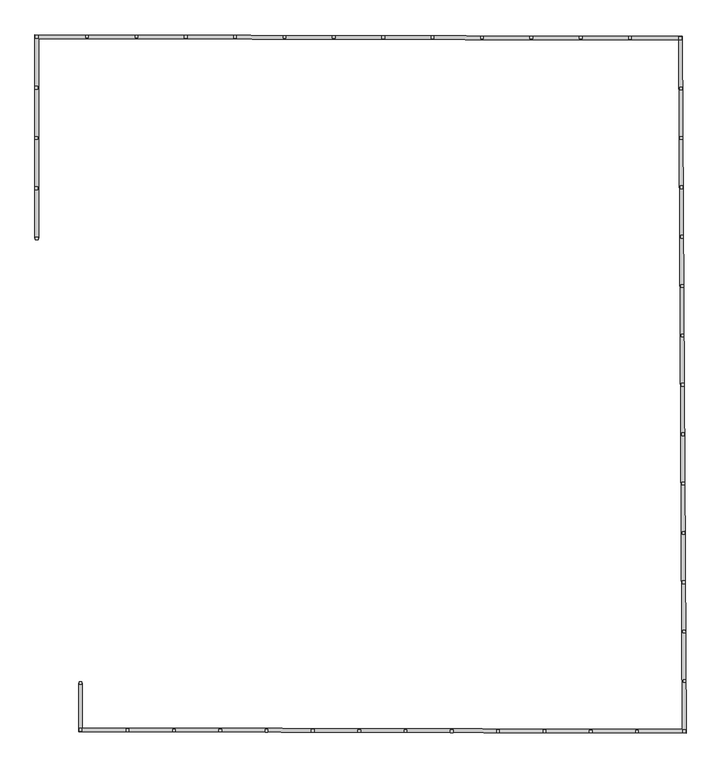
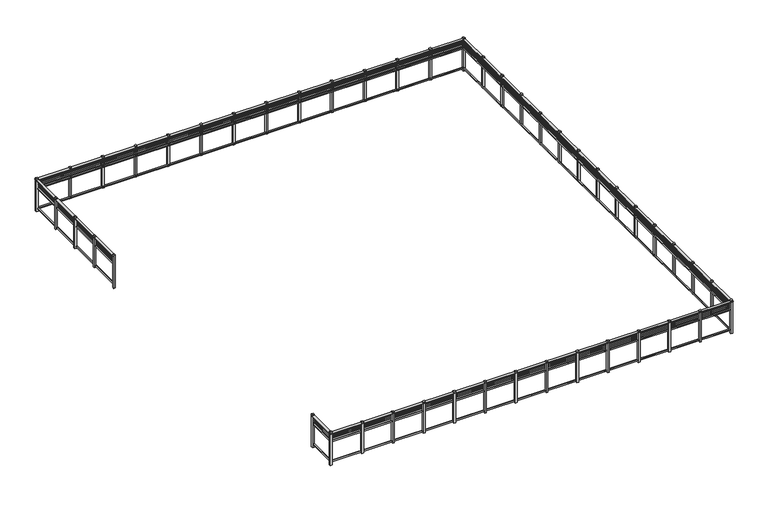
"""IFC4 building model written with IfcOpenShell, lengths in millimetres: railing geometry, Dolan Fence - Frame."""

import ifcopenshell
import ifcopenshell.guid

model = None  # the IFC model being written
_history = None  # IfcOwnerHistory: only IFC2X3 demands one
_inside = {}  # id of a spatial element -> (the spatial element, [elements in it])
_under = {}  # id of a project, library or spatial element -> (it, [spatial elements below it])
_declared = {}  # id of a project -> (the project, [libraries it declares])
_typed = {}  # id of a type object -> (the type object, [elements of that type])
_made_of = {}  # id of a material, layer set ... -> (it, [elements and type objects made of it])


def new_model(schema):
    """Start an empty IFC model of exactly this schema.

    Asked for "IFC4X3", IfcOpenShell would pick the latest addendum, in which some entities
    have other attributes; the version numbers below select the first issue.
    IFC2X3 requires an IfcOwnerHistory on every rooted entity: one is made here for all.
    """
    global model, _history
    if schema == "IFC4X3":
        model = ifcopenshell.file(schema_version=(4, 3, 0, 0))
    else:
        model = ifcopenshell.file(schema=schema)
    _inside.clear()
    _under.clear()
    _declared.clear()
    _typed.clear()
    _made_of.clear()
    _history = None
    if model.schema == "IFC2X3":
        org = make("IfcOrganization", Name="unknown")
        user = make(
            "IfcPersonAndOrganization",
            ThePerson=make("IfcPerson", FamilyName="unknown"),
            TheOrganization=org,
        )
        app = make(
            "IfcApplication",
            ApplicationDeveloper=org,
            Version="unknown",
            ApplicationFullName="unknown",
            ApplicationIdentifier="unknown",
        )
        _history = make(
            "IfcOwnerHistory",
            OwningUser=user,
            OwningApplication=app,
            ChangeAction="ADDED",
            CreationDate=0,
        )
    return model


def make(cls, **values):
    """One entity of the class cls with the attributes given. An attribute that is None is left unset."""
    return model.create_entity(
        cls, **{name: value for name, value in values.items() if value is not None}
    )


def rooted(cls, **values):
    """An entity with a GlobalId (a new one), such as an element, a storey or a relation."""
    return make(cls, GlobalId=ifcopenshell.guid.new(), OwnerHistory=_history, **values)


def si_unit(unit_type, name, prefix=None):
    """IfcSIUnit, for example si_unit("LENGTHUNIT", "METRE", prefix="MILLI")."""
    return make("IfcSIUnit", UnitType=unit_type, Prefix=prefix, Name=name)


def assignment(units):
    """IfcUnitAssignment: the units of a project."""
    return None if units is None else make("IfcUnitAssignment", Units=units)


def point(xyz):
    """IfcCartesianPoint."""
    return None if xyz is None else make("IfcCartesianPoint", Coordinates=xyz)


def direction(xyz):
    """IfcDirection."""
    return None if xyz is None else make("IfcDirection", DirectionRatios=xyz)


def frame(location, z_axis=None, x_axis=None):
    """IfcAxis2Placement3D, a coordinate frame: its origin and axes. An axis left out is left unset."""
    return make(
        "IfcAxis2Placement3D",
        Location=point(location),
        Axis=direction(z_axis),
        RefDirection=direction(x_axis),
    )


def origin():
    """The frame at (0, 0, 0) with its axes left unset."""
    return frame((0.0, 0.0, 0.0))


def place(relative_to, where):
    """IfcLocalPlacement: puts the frame where relative to a parent placement (None: the world)."""
    return make(
        "IfcLocalPlacement", PlacementRelTo=relative_to, RelativePlacement=where
    )


def context(
    kind, dimensions, precision=None, world=None, true_north=None, identifier=None
):
    """IfcGeometricRepresentationContext, for example the 3D "Model" context."""
    return make(
        "IfcGeometricRepresentationContext",
        ContextIdentifier=identifier,
        ContextType=kind,
        CoordinateSpaceDimension=dimensions,
        Precision=precision,
        WorldCoordinateSystem=world,
        TrueNorth=true_north,
    )


def project(units=None, contexts=None):
    """IfcProject with its units and contexts."""
    return rooted(
        "IfcProject",
        Name="project",
        RepresentationContexts=contexts,
        UnitsInContext=assignment(units),
    )


def spatial(cls, under=None, at=None, **own):
    """A site, building, storey or space (cls), placed at a placement, below another one or the project."""
    s = rooted(cls, ObjectPlacement=at, **own)
    if under is not None:
        _under.setdefault(under.id(), (under, []))[1].append(s)
    return s


def polyline(points):
    """IfcPolyline through the points."""
    return make("IfcPolyline", Points=[point(p) for p in points])


def outline(outer, holes=None, kind="AREA"):
    """IfcArbitraryClosedProfileDef: a profile drawn as a closed curve; with holes, ...WithVoids."""
    if holes is None:
        return make("IfcArbitraryClosedProfileDef", ProfileType=kind, OuterCurve=outer)
    return make(
        "IfcArbitraryProfileDefWithVoids",
        ProfileType=kind,
        OuterCurve=outer,
        InnerCurves=holes,
    )


def extrude(swept, where, along, depth):
    """IfcExtrudedAreaSolid: the profile swept, set in the frame where, extruded along a direction by depth."""
    return make(
        "IfcExtrudedAreaSolid",
        SweptArea=swept,
        Position=where,
        ExtrudedDirection=direction(along),
        Depth=depth,
    )


def faces_of(points, faces, orient=None, outer=None):
    """IfcFace entities. A face is a list of loops; a loop is a list of indices into points, from 0.

    orient and outer hold one flag for each loop. By default every Orientation is true, the
    first loop of a face is its IfcFaceOuterBound and the others are IfcFaceBound.
    """
    made = []
    for i, loops in enumerate(faces):
        bounds = []
        for j, loop in enumerate(loops):
            is_outer = j == 0 if outer is None else outer[i][j]
            bounds.append(
                make(
                    "IfcFaceOuterBound" if is_outer else "IfcFaceBound",
                    Bound=make("IfcPolyLoop", Polygon=[points[k] for k in loop]),
                    Orientation=True if orient is None else orient[i][j],
                )
            )
        made.append(make("IfcFace", Bounds=bounds))
    return made


def faceted_brep(points, faces, orient=None, outer=None, voids=None):
    """IfcFacetedBrep: a solid bounded by flat faces; with voids (closed shells), ...WithVoids."""
    shared = [point(p) for p in points]
    hull = make("IfcClosedShell", CfsFaces=faces_of(shared, faces, orient, outer))
    if voids is None:
        return make("IfcFacetedBrep", Outer=hull)
    return make(
        "IfcFacetedBrepWithVoids",
        Outer=hull,
        Voids=[
            make(cls, CfsFaces=faces_of(shared, fs, o, b)) for cls, fs, o, b in voids
        ],
    )


def shape(context_of_items, identifier, shape_type, items):
    """IfcShapeRepresentation: the items that make up one representation, for example the "Body"."""
    return make(
        "IfcShapeRepresentation",
        ContextOfItems=context_of_items,
        RepresentationIdentifier=identifier,
        RepresentationType=shape_type,
        Items=items,
    )


def source(mapping_origin, context_of_items, identifier, shape_type, items):
    """IfcRepresentationMap: a shape defined once, which mapped items show again and again."""
    return make(
        "IfcRepresentationMap",
        MappingOrigin=mapping_origin,
        MappedRepresentation=shape(context_of_items, identifier, shape_type, items),
    )


def transform(
    local_origin,
    x_axis=None,
    y_axis=None,
    z_axis=None,
    scale=None,
    scale2=None,
    scale3=None,
    uniform=True,
):
    """IfcCartesianTransformationOperator3D, or its non-uniform kind. x_axis, y_axis, z_axis: its Axis1, 2, 3."""
    if uniform:
        return make(
            "IfcCartesianTransformationOperator3D",
            Axis1=direction(x_axis),
            Axis2=direction(y_axis),
            LocalOrigin=point(local_origin),
            Scale=scale,
            Axis3=direction(z_axis),
        )
    return make(
        "IfcCartesianTransformationOperator3DnonUniform",
        Axis1=direction(x_axis),
        Axis2=direction(y_axis),
        LocalOrigin=point(local_origin),
        Scale=scale,
        Axis3=direction(z_axis),
        Scale2=scale2,
        Scale3=scale3,
    )


def mapped(mapping_source, mapping_target):
    """IfcMappedItem: shows the shape of a source again, moved by a transform."""
    return make(
        "IfcMappedItem", MappingSource=mapping_source, MappingTarget=mapping_target
    )


def made_of(thing, what):
    """Note that an element or type object is made of a material, layer set ...; save() writes the relation."""
    if what is not None:
        _made_of.setdefault(what.id(), (what, []))[1].append(thing)
    return thing


def element(
    cls,
    number,
    at=None,
    inside=None,
    cuts=None,
    type_object=None,
    material=None,
    context=None,
    identifier="Body",
    shape_type=None,
    held_by="IfcProductDefinitionShape",
    body=None,
    shapes=None,
    **own,
):
    """One element of the class cls, such as IfcWall. Its Tag is "e" and its number.

    at: its placement. inside: the storey or other place that contains it. cuts: it is an
    opening in that element (IfcRelVoidsElement). A single representation is given by context,
    identifier, shape_type and body (its items); several are given by shapes. held_by: the class
    of the entity that holds the representations. save() writes the other relations.
    """
    e = rooted(cls, Tag="e%d" % number, ObjectPlacement=at, **own)
    if body is not None:
        shapes = [shape(context, identifier, shape_type, body)]
    if shapes is not None:
        e.Representation = make(held_by, Representations=shapes)
    if inside is not None:
        _inside.setdefault(inside.id(), (inside, []))[1].append(e)
    if cuts is not None:
        rooted(
            "IfcRelVoidsElement", RelatingBuildingElement=cuts, RelatedOpeningElement=e
        )
    if type_object is not None:
        _typed.setdefault(type_object.id(), (type_object, []))[1].append(e)
    return made_of(e, material)


def aggregate(whole, parts):
    """IfcRelAggregates: a whole, such as a stair, and the parts it consists of."""
    return rooted("IfcRelAggregates", RelatingObject=whole, RelatedObjects=parts)


def save(model, path):
    """Write the relations noted so far, then the file.

    IfcRelAggregates (storeys below a building ...), IfcRelContainedInSpatialStructure (elements
    in a storey), IfcRelDefinesByType, IfcRelAssociatesMaterial and IfcRelDeclares: one each for
    every whole, place, type object, material and project.
    """
    for whole, parts in _under.values():
        aggregate(whole, parts)
    for where, things in _inside.values():
        rooted(
            "IfcRelContainedInSpatialStructure",
            RelatedElements=things,
            RelatingStructure=where,
        )
    for kind, things in _typed.values():
        rooted("IfcRelDefinesByType", RelatedObjects=things, RelatingType=kind)
    for what, things in _made_of.values():
        rooted("IfcRelAssociatesMaterial", RelatedObjects=things, RelatingMaterial=what)
    for by, libraries in _declared.values():
        rooted("IfcRelDeclares", RelatingContext=by, RelatedDefinitions=libraries)
    model.write(path)


def railing_a39a6ae4(model_context):
    return source(origin(), model_context, "Body", "SolidModel", [
        faceted_brep([(-12322.7961294, -13051.0939898, 2235.8096), (-12138.6461294, -13051.0939898, 2235.8096), (-12138.6461294, -13051.0939898, 2197.7096), (-12322.7961294, -13051.0939898, 2197.7096), (-14547.8361294, 9603.1660102, 2235.8096), (-14547.8361294, 9603.1660102, 2197.7096), (-14363.6861294, 9603.1660102, 2197.7096), (-14363.6861294, 9603.1660102, 2235.8096), (-12138.6461294, -15340.4708987, 2235.8096), (-12138.6461294, -15340.4708987, 2197.7096), (-12322.7961294, -15524.1705936, 2235.8096), (18446.3144481, -15415.3524854, 2235.8096), (18446.3144481, -15415.3524854, 2197.7096), (18631.516355, -15599.9564697, 2235.8096), (18246.7302059, 19709.8710808, 2235.8096), (18246.7302059, 19709.8710808, 2197.7096), (18429.8393683, 19893.573324, 2235.8096), (-14363.6861294, 19789.7116191, 2235.8096), (-14363.6861294, 19789.7116191, 2197.7096), (-14547.8361294, 19974.313028, 2235.8096), (-12322.7961294, -15524.1705936, 2197.7096), (18631.516355, -15599.9564697, 2197.7096), (18429.8393683, 19893.573324, 2197.7096), (-14547.8361294, 19974.313028, 2197.7096)], [[[0, 1, 2, 3]], [[4, 5, 6, 7]], [[2, 1, 8, 9]], [[1, 0, 10, 8]], [[9, 8, 11, 12]], [[8, 10, 13, 11]], [[12, 11, 14, 15]], [[11, 13, 16, 14]], [[15, 14, 17, 18]], [[14, 16, 19, 17]], [[18, 17, 7, 6]], [[17, 19, 4, 7]], [[3, 2, 9, 20]], [[0, 3, 20, 10]], [[20, 9, 12, 21]], [[10, 20, 21, 13]], [[21, 12, 15, 22]], [[13, 21, 22, 16]], [[22, 15, 18, 23]], [[16, 22, 23, 19]], [[23, 18, 6, 5]], [[19, 23, 5, 4]]]),
        faceted_brep([(-12183.0961294, -13051.0939898, 1981.8096), (-12164.0461294, -13051.0939898, 1981.8096), (-12164.0461294, -13051.0939898, 1962.7596), (-12183.0961294, -13051.0939898, 1962.7596), (-14408.1361294, 9603.1660102, 1981.8096), (-14408.1361294, 9603.1660102, 1962.7596), (-14389.0861294, 9603.1660102, 1962.7596), (-14389.0861294, 9603.1660102, 1981.8096), (-12164.0461294, -15365.8087877, 1981.8096), (-12164.0461294, -15365.8087877, 1962.7596), (-12183.0961294, -15384.8122044, 1981.8096), (18471.8595387, -15440.8151039, 1981.8096), (18471.8595387, -15440.8151039, 1962.7596), (18491.0183567, -15459.9120678, 1981.8096), (18271.9866421, 19735.2093213, 1981.8096), (18271.9866421, 19735.2093213, 1962.7596), (18290.9289692, 19754.2130016, 1981.8096), (-14389.0861294, 19815.1738824, 1981.8096), (-14389.0861294, 19815.1738824, 1962.7596), (-14408.1361294, 19834.2705798, 1981.8096), (-12183.0961294, -15384.8122044, 1962.7596), (18491.0183567, -15459.9120678, 1962.7596), (18290.9289692, 19754.2130016, 1962.7596), (-14408.1361294, 19834.2705798, 1962.7596)], [[[0, 1, 2, 3]], [[4, 5, 6, 7]], [[2, 1, 8, 9]], [[1, 0, 10, 8]], [[9, 8, 11, 12]], [[8, 10, 13, 11]], [[12, 11, 14, 15]], [[11, 13, 16, 14]], [[15, 14, 17, 18]], [[14, 16, 19, 17]], [[18, 17, 7, 6]], [[17, 19, 4, 7]], [[3, 2, 9, 20]], [[0, 3, 20, 10]], [[20, 9, 12, 21]], [[10, 20, 21, 13]], [[21, 12, 15, 22]], [[13, 21, 22, 16]], [[22, 15, 18, 23]], [[16, 22, 23, 19]], [[23, 18, 6, 5]], [[19, 23, 5, 4]]]),
        faceted_brep([(-12183.0961294, -13051.0939898, 1854.8096), (-12164.0461294, -13051.0939898, 1854.8096), (-12164.0461294, -13051.0939898, 1835.7596), (-12183.0961294, -13051.0939898, 1835.7596), (-14408.1361294, 9603.1660102, 1854.8096), (-14408.1361294, 9603.1660102, 1835.7596), (-14389.0861294, 9603.1660102, 1835.7596), (-14389.0861294, 9603.1660102, 1854.8096), (-12183.0961294, -15384.8122044, 1854.8096), (-12164.0461294, -15365.8087877, 1854.8096), (-12164.0461294, -15365.8087877, 1835.7596), (-12183.0961294, -15384.8122044, 1835.7596), (18491.0183567, -15459.9120678, 1854.8096), (18471.8595387, -15440.8151039, 1854.8096), (18471.8595387, -15440.8151039, 1835.7596), (18491.0183567, -15459.9120678, 1835.7596), (18290.9289692, 19754.2130016, 1854.8096), (18271.9866421, 19735.2093213, 1854.8096), (18271.9866421, 19735.2093213, 1835.7596), (18290.9289692, 19754.2130016, 1835.7596), (-14408.1361294, 19834.2705798, 1854.8096), (-14389.0861294, 19815.1738824, 1854.8096), (-14389.0861294, 19815.1738824, 1835.7596), (-14408.1361294, 19834.2705798, 1835.7596)], [[[0, 1, 2, 3]], [[4, 5, 6, 7]], [[1, 0, 8, 9]], [[2, 1, 9, 10]], [[3, 2, 10, 11]], [[0, 3, 11, 8]], [[9, 8, 12, 13]], [[10, 9, 13, 14]], [[11, 10, 14, 15]], [[8, 11, 15, 12]], [[13, 12, 16, 17]], [[14, 13, 17, 18]], [[15, 14, 18, 19]], [[12, 15, 19, 16]], [[17, 16, 20, 21]], [[18, 17, 21, 22]], [[19, 18, 22, 23]], [[16, 19, 23, 20]], [[21, 20, 4, 7]], [[22, 21, 7, 6]], [[23, 22, 6, 5]], [[20, 23, 5, 4]]]),
        faceted_brep([(-12183.0961294, -13051.0939898, 1721.4596), (-12164.0461294, -13051.0939898, 1721.4596), (-12164.0461294, -13051.0939898, 1702.4096), (-12183.0961294, -13051.0939898, 1702.4096), (-14408.1361294, 9603.1660102, 1721.4596), (-14408.1361294, 9603.1660102, 1702.4096), (-14389.0861294, 9603.1660102, 1702.4096), (-14389.0861294, 9603.1660102, 1721.4596), (-12183.0961294, -15384.8122044, 1721.4596), (-12164.0461294, -15365.8087877, 1721.4596), (-12164.0461294, -15365.8087877, 1702.4096), (-12183.0961294, -15384.8122044, 1702.4096), (18491.0183567, -15459.9120678, 1721.4596), (18471.8595387, -15440.8151039, 1721.4596), (18471.8595387, -15440.8151039, 1702.4096), (18491.0183567, -15459.9120678, 1702.4096), (18290.9289692, 19754.2130016, 1721.4596), (18271.9866421, 19735.2093213, 1721.4596), (18271.9866421, 19735.2093213, 1702.4096), (18290.9289692, 19754.2130016, 1702.4096), (-14408.1361294, 19834.2705798, 1721.4596), (-14389.0861294, 19815.1738824, 1721.4596), (-14389.0861294, 19815.1738824, 1702.4096), (-14408.1361294, 19834.2705798, 1702.4096)], [[[0, 1, 2, 3]], [[4, 5, 6, 7]], [[1, 0, 8, 9]], [[2, 1, 9, 10]], [[3, 2, 10, 11]], [[0, 3, 11, 8]], [[9, 8, 12, 13]], [[10, 9, 13, 14]], [[11, 10, 14, 15]], [[8, 11, 15, 12]], [[13, 12, 16, 17]], [[14, 13, 17, 18]], [[15, 14, 18, 19]], [[12, 15, 19, 16]], [[17, 16, 20, 21]], [[18, 17, 21, 22]], [[19, 18, 22, 23]], [[16, 19, 23, 20]], [[21, 20, 4, 7]], [[22, 21, 7, 6]], [[23, 22, 6, 5]], [[20, 23, 5, 4]]]),
        faceted_brep([(-12221.1961294, -13051.0939898, 2197.7096), (-12144.9961294, -13051.0939898, 2197.7096), (-12144.9961294, -13051.0939898, 2108.8096), (-12221.1961294, -13051.0939898, 2108.8096), (-14446.2361294, 9603.1660102, 2197.7096), (-14446.2361294, 9603.1660102, 2108.8096), (-14370.0361294, 9603.1660102, 2108.8096), (-14370.0361294, 9603.1660102, 2197.7096), (-12221.1961294, -15422.8190378, 2197.7096), (-12144.9961294, -15346.805371, 2197.7096), (-12144.9961294, -15346.805371, 2108.8096), (-12221.1961294, -15422.8190378, 2108.8096), (18529.3359926, -15498.1059956, 2197.7096), (18452.7007208, -15421.71814, 2197.7096), (18452.7007208, -15421.71814, 2108.8096), (18529.3359926, -15498.1059956, 2108.8096), (18328.8136235, 19792.2203622, 2197.7096), (18253.044315, 19716.2056409, 2197.7096), (18253.044315, 19716.2056409, 2108.8096), (18328.8136235, 19792.2203622, 2108.8096), (-14446.2361294, 19872.4639748, 2197.7096), (-14370.0361294, 19796.0771849, 2197.7096), (-14370.0361294, 19796.0771849, 2108.8096), (-14446.2361294, 19872.4639748, 2108.8096)], [[[0, 1, 2, 3]], [[4, 5, 6, 7]], [[1, 0, 8, 9]], [[2, 1, 9, 10]], [[3, 2, 10, 11]], [[0, 3, 11, 8]], [[9, 8, 12, 13]], [[10, 9, 13, 14]], [[11, 10, 14, 15]], [[8, 11, 15, 12]], [[13, 12, 16, 17]], [[14, 13, 17, 18]], [[15, 14, 18, 19]], [[12, 15, 19, 16]], [[17, 16, 20, 21]], [[18, 17, 21, 22]], [[19, 18, 22, 23]], [[16, 19, 23, 20]], [[21, 20, 4, 7]], [[22, 21, 7, 6]], [[23, 22, 6, 5]], [[20, 23, 5, 4]]]),
        faceted_brep([(-12221.1961294, -13051.0939898, 1575.4096), (-12144.9961294, -13051.0939898, 1575.4096), (-12144.9961294, -13051.0939898, 1486.5096), (-12221.1961294, -13051.0939898, 1486.5096), (-14446.2361294, 9603.1660102, 1575.4096), (-14446.2361294, 9603.1660102, 1486.5096), (-14370.0361294, 9603.1660102, 1486.5096), (-14370.0361294, 9603.1660102, 1575.4096), (-12221.1961294, -15422.8190378, 1575.4096), (-12144.9961294, -15346.805371, 1575.4096), (-12144.9961294, -15346.805371, 1486.5096), (-12221.1961294, -15422.8190378, 1486.5096), (18529.3359926, -15498.1059956, 1575.4096), (18452.7007208, -15421.71814, 1575.4096), (18452.7007208, -15421.71814, 1486.5096), (18529.3359926, -15498.1059956, 1486.5096), (18328.8136235, 19792.2203622, 1575.4096), (18253.044315, 19716.2056409, 1575.4096), (18253.044315, 19716.2056409, 1486.5096), (18328.8136235, 19792.2203622, 1486.5096), (-14446.2361294, 19872.4639748, 1575.4096), (-14370.0361294, 19796.0771849, 1575.4096), (-14370.0361294, 19796.0771849, 1486.5096), (-14446.2361294, 19872.4639748, 1486.5096)], [[[0, 1, 2, 3]], [[4, 5, 6, 7]], [[1, 0, 8, 9]], [[2, 1, 9, 10]], [[3, 2, 10, 11]], [[0, 3, 11, 8]], [[9, 8, 12, 13]], [[10, 9, 13, 14]], [[11, 10, 14, 15]], [[8, 11, 15, 12]], [[13, 12, 16, 17]], [[14, 13, 17, 18]], [[15, 14, 18, 19]], [[12, 15, 19, 16]], [[17, 16, 20, 21]], [[18, 17, 21, 22]], [[19, 18, 22, 23]], [[16, 19, 23, 20]], [[21, 20, 4, 7]], [[22, 21, 7, 6]], [[23, 22, 6, 5]], [[20, 23, 5, 4]]]),
        faceted_brep([(-12221.1961294, -13051.0939898, -50.1904), (-12144.9961294, -13051.0939898, -50.1904), (-12144.9961294, -13051.0939898, -139.0904), (-12221.1961294, -13051.0939898, -139.0904), (-14446.2361294, 9603.1660102, -50.1904), (-14446.2361294, 9603.1660102, -139.0904), (-14370.0361294, 9603.1660102, -139.0904), (-14370.0361294, 9603.1660102, -50.1904), (-12221.1961294, -15422.8190378, -50.1904), (-12144.9961294, -15346.805371, -50.1904), (-12144.9961294, -15346.805371, -139.0904), (-12221.1961294, -15422.8190378, -139.0904), (18529.3359926, -15498.1059956, -50.1904), (18452.7007208, -15421.71814, -50.1904), (18452.7007208, -15421.71814, -139.0904), (18529.3359926, -15498.1059956, -139.0904), (18328.8136235, 19792.2203622, -50.1904), (18253.044315, 19716.2056409, -50.1904), (18253.044315, 19716.2056409, -139.0904), (18328.8136235, 19792.2203622, -139.0904), (-14446.2361294, 19872.4639748, -50.1904), (-14370.0361294, 19796.0771849, -50.1904), (-14370.0361294, 19796.0771849, -139.0904), (-14446.2361294, 19872.4639748, -139.0904)], [[[0, 1, 2, 3]], [[4, 5, 6, 7]], [[1, 0, 8, 9]], [[2, 1, 9, 10]], [[3, 2, 10, 11]], [[0, 3, 11, 8]], [[9, 8, 12, 13]], [[10, 9, 13, 14]], [[11, 10, 14, 15]], [[8, 11, 15, 12]], [[13, 12, 16, 17]], [[14, 13, 17, 18]], [[15, 14, 18, 19]], [[12, 15, 19, 16]], [[17, 16, 20, 21]], [[18, 17, 21, 22]], [[19, 18, 22, 23]], [[16, 19, 23, 20]], [[21, 20, 4, 7]], [[22, 21, 7, 6]], [[23, 22, 6, 5]], [[20, 23, 5, 4]]]),
        extrude(outline(polyline([(-14547.8361294, 12230.7921526), (-14408.1361294, 12230.7921526), (-14408.1361294, 12091.0921526), (-14547.8361294, 12091.0921526), (-14547.8361294, 12230.7921526)])), frame((0.0, 0.0, -202.5904), z_axis=(0.0, 0.0, 1.0), x_axis=(1.0, 0.0, 0.0)), (0.0, 0.0, 1.0), 2539.9007812),
        extrude(outline(polyline([(-14547.8361294, 14788.568295), (-14408.1361294, 14788.568295), (-14408.1361294, 14648.868295), (-14547.8361294, 14648.868295), (-14547.8361294, 14788.568295)])), frame((0.0, 0.0, -202.5904), z_axis=(0.0, 0.0, 1.0), x_axis=(1.0, 0.0, 0.0)), (0.0, 0.0, 1.0), 2539.9007812),
        extrude(outline(polyline([(-14547.8361294, 17346.3444374), (-14408.1361294, 17346.3444374), (-14408.1361294, 17206.6444374), (-14547.8361294, 17206.6444374), (-14547.8361294, 17346.3444374)])), frame((0.0, 0.0, -202.5904), z_axis=(0.0, 0.0, 1.0), x_axis=(1.0, 0.0, 0.0)), (0.0, 0.0, 1.0), 2539.9007812),
        extrude(outline(polyline([(-11822.6316104, 19967.6408717), (-11822.9736388, 19827.9412904), (-11962.6732202, 19828.2833188), (-11962.3311917, 19967.9829001), (-11822.6316104, 19967.6408717)])), frame((0.0, 0.0, -202.5904), z_axis=(0.0, 0.0, 1.0), x_axis=(1.0, 0.0, 0.0)), (0.0, 0.0, 1.0), 2539.9007812),
        extrude(outline(polyline([(-9307.3189105, 19961.4825964), (-9307.660939, 19821.7830151), (-9447.3605203, 19822.1250436), (-9447.0184918, 19961.8246249), (-9307.3189105, 19961.4825964)])), frame((0.0, 0.0, -202.5904), z_axis=(0.0, 0.0, 1.0), x_axis=(1.0, 0.0, 0.0)), (0.0, 0.0, 1.0), 2539.9007812),
        extrude(outline(polyline([(-6792.0062106, 19955.3243212), (-6792.3482391, 19815.6247399), (-6932.0478204, 19815.9667683), (-6931.7057919, 19955.6663496), (-6792.0062106, 19955.3243212)])), frame((0.0, 0.0, -202.5904), z_axis=(0.0, 0.0, 1.0), x_axis=(1.0, 0.0, 0.0)), (0.0, 0.0, 1.0), 2539.9007812),
        extrude(outline(polyline([(-4276.6935107, 19949.1660459), (-4277.0355392, 19809.4664646), (-4416.7351205, 19809.8084931), (-4416.393092, 19949.5080744), (-4276.6935107, 19949.1660459)])), frame((0.0, 0.0, -202.5904), z_axis=(0.0, 0.0, 1.0), x_axis=(1.0, 0.0, 0.0)), (0.0, 0.0, 1.0), 2539.9007812),
        extrude(outline(polyline([(-1761.3808108, 19943.0077707), (-1761.7228393, 19803.3081894), (-1901.4224206, 19803.6502178), (-1901.0803921, 19943.3497991), (-1761.3808108, 19943.0077707)])), frame((0.0, 0.0, -202.5904), z_axis=(0.0, 0.0, 1.0), x_axis=(1.0, 0.0, 0.0)), (0.0, 0.0, 1.0), 2539.9007812),
        extrude(outline(polyline([(753.9318891, 19936.8494954), (753.5898606, 19797.1499141), (613.8902793, 19797.4919426), (614.2323078, 19937.1915239), (753.9318891, 19936.8494954)])), frame((0.0, 0.0, -202.5904), z_axis=(0.0, 0.0, 1.0), x_axis=(1.0, 0.0, 0.0)), (0.0, 0.0, 1.0), 2539.9007812),
        extrude(outline(polyline([(3269.244589, 19930.6912202), (3268.9025605, 19790.9916389), (3129.2029792, 19791.3336673), (3129.5450077, 19931.0332486), (3269.244589, 19930.6912202)])), frame((0.0, 0.0, -202.5904), z_axis=(0.0, 0.0, 1.0), x_axis=(1.0, 0.0, 0.0)), (0.0, 0.0, 1.0), 2539.9007812),
        extrude(outline(polyline([(5784.5572889, 19924.5329449), (5784.2152604, 19784.8333636), (5644.5156791, 19785.1753921), (5644.8577076, 19924.8749734), (5784.5572889, 19924.5329449)])), frame((0.0, 0.0, -202.5904), z_axis=(0.0, 0.0, 1.0), x_axis=(1.0, 0.0, 0.0)), (0.0, 0.0, 1.0), 2539.9007812),
        extrude(outline(polyline([(8299.8699888, 19918.3746697), (8299.5279603, 19778.6750884), (8159.828379, 19779.0171168), (8160.1704074, 19918.7166981), (8299.8699888, 19918.3746697)])), frame((0.0, 0.0, -202.5904), z_axis=(0.0, 0.0, 1.0), x_axis=(1.0, 0.0, 0.0)), (0.0, 0.0, 1.0), 2539.9007812),
        extrude(outline(polyline([(10815.1826886, 19912.2163944), (10814.8406602, 19772.5168131), (10675.1410789, 19772.8588416), (10675.4831073, 19912.5584229), (10815.1826886, 19912.2163944)])), frame((0.0, 0.0, -202.5904), z_axis=(0.0, 0.0, 1.0), x_axis=(1.0, 0.0, 0.0)), (0.0, 0.0, 1.0), 2539.9007812),
        extrude(outline(polyline([(13330.4953885, 19906.0581192), (13330.1533601, 19766.3585379), (13190.4537788, 19766.7005663), (13190.7958072, 19906.4001476), (13330.4953885, 19906.0581192)])), frame((0.0, 0.0, -202.5904), z_axis=(0.0, 0.0, 1.0), x_axis=(1.0, 0.0, 0.0)), (0.0, 0.0, 1.0), 2539.9007812),
        extrude(outline(polyline([(15845.8080884, 19899.8998439), (15845.46606, 19760.2002626), (15705.7664787, 19760.5422911), (15706.1085071, 19900.2418724), (15845.8080884, 19899.8998439)])), frame((0.0, 0.0, -202.5904), z_axis=(0.0, 0.0, 1.0), x_axis=(1.0, 0.0, 0.0)), (0.0, 0.0, 1.0), 2539.9007812),
        extrude(outline(polyline([(18445.3156999, 17169.8632547), (18305.6179551, 17169.0694813), (18304.8241816, 17308.7672262), (18444.5219265, 17309.5609996), (18445.3156999, 17169.8632547)])), frame((0.0, 0.0, -202.5904), z_axis=(0.0, 0.0, 1.0), x_axis=(1.0, 0.0, 0.0)), (0.0, 0.0, 1.0), 2539.9007812),
        extrude(outline(polyline([(18459.607799, 14654.5686069), (18319.9100542, 14653.7748335), (18319.1162807, 14793.4725784), (18458.8140256, 14794.2663518), (18459.607799, 14654.5686069)])), frame((0.0, 0.0, -202.5904), z_axis=(0.0, 0.0, 1.0), x_axis=(1.0, 0.0, 0.0)), (0.0, 0.0, 1.0), 2539.9007812),
        extrude(outline(polyline([(18473.8998981, 12139.2739591), (18334.2021533, 12138.4801857), (18333.4083798, 12278.1779306), (18473.1061247, 12278.971704), (18473.8998981, 12139.2739591)])), frame((0.0, 0.0, -202.5904), z_axis=(0.0, 0.0, 1.0), x_axis=(1.0, 0.0, 0.0)), (0.0, 0.0, 1.0), 2539.9007812),
        extrude(outline(polyline([(18488.1919972, 9623.9793113), (18348.4942524, 9623.1855379), (18347.700479, 9762.8832828), (18487.3982238, 9763.6770562), (18488.1919972, 9623.9793113)])), frame((0.0, 0.0, -202.5904), z_axis=(0.0, 0.0, 1.0), x_axis=(1.0, 0.0, 0.0)), (0.0, 0.0, 1.0), 2539.9007812),
        extrude(outline(polyline([(18502.4840963, 7108.6846635), (18362.7863515, 7107.8908901), (18361.9925781, 7247.588635), (18501.6903229, 7248.3824084), (18502.4840963, 7108.6846635)])), frame((0.0, 0.0, -202.5904), z_axis=(0.0, 0.0, 1.0), x_axis=(1.0, 0.0, 0.0)), (0.0, 0.0, 1.0), 2539.9007812),
        extrude(outline(polyline([(18516.7761954, 4593.3900157), (18377.0784506, 4592.5962423), (18376.2846772, 4732.2939872), (18515.982422, 4733.0877606), (18516.7761954, 4593.3900157)])), frame((0.0, 0.0, -202.5904), z_axis=(0.0, 0.0, 1.0), x_axis=(1.0, 0.0, 0.0)), (0.0, 0.0, 1.0), 2539.9007812),
        extrude(outline(polyline([(18531.0682946, 2078.0953679), (18391.3705497, 2077.3015945), (18390.5767763, 2216.9993393), (18530.2745211, 2217.7931128), (18531.0682946, 2078.0953679)])), frame((0.0, 0.0, -202.5904), z_axis=(0.0, 0.0, 1.0), x_axis=(1.0, 0.0, 0.0)), (0.0, 0.0, 1.0), 2539.9007812),
        extrude(outline(polyline([(18545.3603937, -437.1992799), (18405.6626488, -437.9930533), (18404.8688754, -298.2953085), (18544.5666202, -297.5015351), (18545.3603937, -437.1992799)])), frame((0.0, 0.0, -202.5904), z_axis=(0.0, 0.0, 1.0), x_axis=(1.0, 0.0, 0.0)), (0.0, 0.0, 1.0), 2539.9007812),
        extrude(outline(polyline([(18559.6524928, -2952.4939277), (18419.9547479, -2953.2877012), (18419.1609745, -2813.5899563), (18558.8587193, -2812.7961829), (18559.6524928, -2952.4939277)])), frame((0.0, 0.0, -202.5904), z_axis=(0.0, 0.0, 1.0), x_axis=(1.0, 0.0, 0.0)), (0.0, 0.0, 1.0), 2539.9007812),
        extrude(outline(polyline([(18573.9445919, -5467.7885756), (18434.246847, -5468.582349), (18433.4530736, -5328.8846041), (18573.1508185, -5328.0908307), (18573.9445919, -5467.7885756)])), frame((0.0, 0.0, -202.5904), z_axis=(0.0, 0.0, 1.0), x_axis=(1.0, 0.0, 0.0)), (0.0, 0.0, 1.0), 2539.9007812),
        extrude(outline(polyline([(18588.236691, -7983.0832234), (18448.5389461, -7983.8769968), (18447.7451727, -7844.1792519), (18587.4429176, -7843.3854785), (18588.236691, -7983.0832234)])), frame((0.0, 0.0, -202.5904), z_axis=(0.0, 0.0, 1.0), x_axis=(1.0, 0.0, 0.0)), (0.0, 0.0, 1.0), 2539.9007812),
        extrude(outline(polyline([(18602.5287901, -10498.3778712), (18462.8310452, -10499.1716446), (18462.0372718, -10359.4738997), (18601.7350167, -10358.6801263), (18602.5287901, -10498.3778712)])), frame((0.0, 0.0, -202.5904), z_axis=(0.0, 0.0, 1.0), x_axis=(1.0, 0.0, 0.0)), (0.0, 0.0, 1.0), 2539.9007812),
        extrude(outline(polyline([(18616.8208892, -13013.672519), (18477.1231443, -13014.4662924), (18476.3293709, -12874.7685475), (18616.0271158, -12873.9747741), (18616.8208892, -13013.672519)])), frame((0.0, 0.0, -202.5904), z_axis=(0.0, 0.0, 1.0), x_axis=(1.0, 0.0, 0.0)), (0.0, 0.0, 1.0), 2539.9007812),
        extrude(outline(polyline([(16061.2792694, -15593.6637223), (16061.6212979, -15453.964141), (16201.3208792, -15454.3061694), (16200.9788508, -15594.0057507), (16061.2792694, -15593.6637223)])), frame((0.0, 0.0, -202.5904), z_axis=(0.0, 0.0, 1.0), x_axis=(1.0, 0.0, 0.0)), (0.0, 0.0, 1.0), 2539.9007812),
        extrude(outline(polyline([(13701.7320013, -15587.8868097), (13702.0740297, -15448.1872284), (13841.773611, -15448.5292569), (13841.4315826, -15588.2288382), (13701.7320013, -15587.8868097)])), frame((0.0, 0.0, -202.5904), z_axis=(0.0, 0.0, 1.0), x_axis=(1.0, 0.0, 0.0)), (0.0, 0.0, 1.0), 2539.9007812),
        extrude(outline(polyline([(11342.1847331, -15582.1098972), (11342.5267616, -15442.4103159), (11482.2263429, -15442.7523443), (11481.8843144, -15582.4519256), (11342.1847331, -15582.1098972)])), frame((0.0, 0.0, -202.5904), z_axis=(0.0, 0.0, 1.0), x_axis=(1.0, 0.0, 0.0)), (0.0, 0.0, 1.0), 2539.9007812),
        extrude(outline(polyline([(8982.637465, -15576.3329846), (8982.9794934, -15436.6334033), (9122.6790747, -15436.9754317), (9122.3370463, -15576.675013), (8982.637465, -15576.3329846)])), frame((0.0, 0.0, -202.5904), z_axis=(0.0, 0.0, 1.0), x_axis=(1.0, 0.0, 0.0)), (0.0, 0.0, 1.0), 2539.9007812),
        extrude(outline(polyline([(6623.0901968, -15570.556072), (6623.4322252, -15430.8564907), (6763.1318065, -15431.1985192), (6762.7897781, -15570.8981005), (6623.0901968, -15570.556072)])), frame((0.0, 0.0, -202.5904), z_axis=(0.0, 0.0, 1.0), x_axis=(1.0, 0.0, 0.0)), (0.0, 0.0, 1.0), 2539.9007812),
        extrude(outline(polyline([(4263.5429286, -15564.7791595), (4263.8849571, -15425.0795782), (4403.5845384, -15425.4216066), (4403.2425099, -15565.1211879), (4263.5429286, -15564.7791595)])), frame((0.0, 0.0, -202.5904), z_axis=(0.0, 0.0, 1.0), x_axis=(1.0, 0.0, 0.0)), (0.0, 0.0, 1.0), 2539.9007812),
        extrude(outline(polyline([(1903.9956605, -15559.0022469), (1904.3376889, -15419.3026656), (2044.0372702, -15419.644694), (2043.6952418, -15559.3442753), (1903.9956605, -15559.0022469)])), frame((0.0, 0.0, -202.5904), z_axis=(0.0, 0.0, 1.0), x_axis=(1.0, 0.0, 0.0)), (0.0, 0.0, 1.0), 2539.9007812),
        extrude(outline(polyline([(-455.5516077, -15553.2253343), (-455.2095792, -15413.525753), (-315.5099979, -15413.8677815), (-315.8520264, -15553.5673628), (-455.5516077, -15553.2253343)])), frame((0.0, 0.0, -202.5904), z_axis=(0.0, 0.0, 1.0), x_axis=(1.0, 0.0, 0.0)), (0.0, 0.0, 1.0), 2539.9007812),
        extrude(outline(polyline([(-2815.0988758, -15547.4484218), (-2814.7568474, -15407.7488405), (-2675.0572661, -15408.0908689), (-2675.3992945, -15547.7904502), (-2815.0988758, -15547.4484218)])), frame((0.0, 0.0, -202.5904), z_axis=(0.0, 0.0, 1.0), x_axis=(1.0, 0.0, 0.0)), (0.0, 0.0, 1.0), 2539.9007812),
        extrude(outline(polyline([(-5174.646144, -15541.6715092), (-5174.3041156, -15401.9719279), (-5034.6045343, -15402.3139563), (-5034.9465627, -15542.0135376), (-5174.646144, -15541.6715092)])), frame((0.0, 0.0, -202.5904), z_axis=(0.0, 0.0, 1.0), x_axis=(1.0, 0.0, 0.0)), (0.0, 0.0, 1.0), 2539.9007812),
        extrude(outline(polyline([(-7534.1934122, -15535.8945966), (-7533.8513837, -15396.1950153), (-7394.1518024, -15396.5370438), (-7394.4938309, -15536.2366251), (-7534.1934122, -15535.8945966)])), frame((0.0, 0.0, -202.5904), z_axis=(0.0, 0.0, 1.0), x_axis=(1.0, 0.0, 0.0)), (0.0, 0.0, 1.0), 2539.9007812),
        extrude(outline(polyline([(-9893.7406803, -15530.1176841), (-9893.3986519, -15390.4181028), (-9753.6990706, -15390.7601312), (-9754.041099, -15530.4597125), (-9893.7406803, -15530.1176841)])), frame((0.0, 0.0, -202.5904), z_axis=(0.0, 0.0, 1.0), x_axis=(1.0, 0.0, 0.0)), (0.0, 0.0, 1.0), 2539.9007812),
        extrude(outline(polyline([(-14382.4563641, 19948.5080503), (-14382.7983925, 19808.808469), (-14522.4979738, 19809.1504974), (-14522.1559454, 19948.8500787), (-14382.4563641, 19948.5080503)])), frame((0.0, 0.0, -354.9904), z_axis=(0.0, 0.0, 1.0), x_axis=(1.0, 0.0, 0.0)), (0.0, 0.0, 1.0), 2692.3007812),
        extrude(outline(polyline([(18405.3714466, 19729.4628626), (18265.6737017, 19728.6690892), (18264.8799283, 19868.366834), (18404.5776732, 19869.1606075), (18405.3714466, 19729.4628626)])), frame((0.0, 0.0, -354.9904), z_axis=(0.0, 0.0, 1.0), x_axis=(1.0, 0.0, 0.0)), (0.0, 0.0, 1.0), 2692.3007812),
        extrude(outline(polyline([(18465.3385914, -15574.1495382), (18465.6806198, -15434.4499569), (18605.3802011, -15434.7919854), (18605.0381727, -15574.4915667), (18465.3385914, -15574.1495382)])), frame((0.0, 0.0, -354.9904), z_axis=(0.0, 0.0, 1.0), x_axis=(1.0, 0.0, 0.0)), (0.0, 0.0, 1.0), 2692.3007812),
        extrude(outline(polyline([(-12297.3961294, -15359.4122044), (-12157.6961294, -15359.4122044), (-12157.6961294, -15499.1122044), (-12297.3961294, -15499.1122044), (-12297.3961294, -15359.4122044)])), frame((0.0, 0.0, -354.9904), z_axis=(0.0, 0.0, 1.0), x_axis=(1.0, 0.0, 0.0)), (0.0, 0.0, 1.0), 2692.3007812),
        extrude(outline(polyline([(-14522.4361294, 9673.0160102), (-14382.7361294, 9673.0160102), (-14382.7361294, 9533.3160102), (-14522.4361294, 9533.3160102), (-14522.4361294, 9673.0160102)])), frame((0.0, 0.0, -354.9904), z_axis=(0.0, 0.0, 1.0), x_axis=(1.0, 0.0, 0.0)), (0.0, 0.0, 1.0), 2692.3007812),
        extrude(outline(polyline([(-12297.3961294, -12981.2439898), (-12157.6961294, -12981.2439898), (-12157.6961294, -13120.9439898), (-12297.3961294, -13120.9439898), (-12297.3961294, -12981.2439898)])), frame((0.0, 0.0, -354.9904), z_axis=(0.0, 0.0, 1.0), x_axis=(1.0, 0.0, 0.0)), (0.0, 0.0, 1.0), 2692.3007812),
    ])


if __name__ == "__main__":
    model = new_model("IFC4")
    model_context = context("Model", 3, world=origin())
    ifc_project = project(units=[si_unit("LENGTHUNIT", "METRE", prefix="MILLI")], contexts=[model_context])
    site = spatial("IfcSite", under=ifc_project)
    building = spatial("IfcBuilding", under=site)
    placement = place(None, origin())
    railing_shape = railing_a39a6ae4(model_context)
    element("IfcRailing", 1, ObjectType="Dolan Fence - Frame", at=placement, inside=building, context=model_context, shape_type="MappedRepresentation", body=[
        mapped(railing_shape, transform((0.0, 0.0, 0.0), x_axis=(1.0, 0.0, 0.0), y_axis=(0.0, 1.0, 0.0), z_axis=(0.0, 0.0, 1.0))),
    ])
    save(model, "model.ifc")
